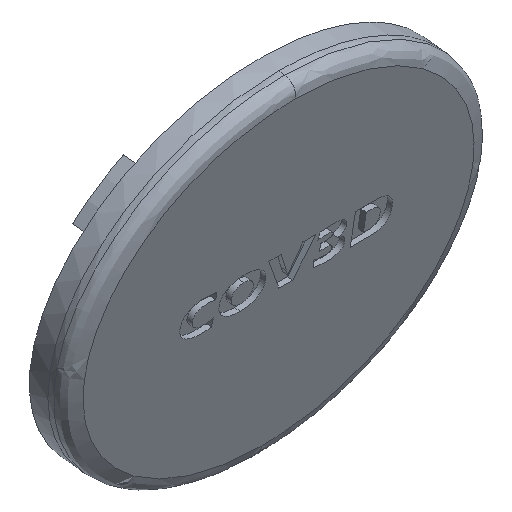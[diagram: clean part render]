
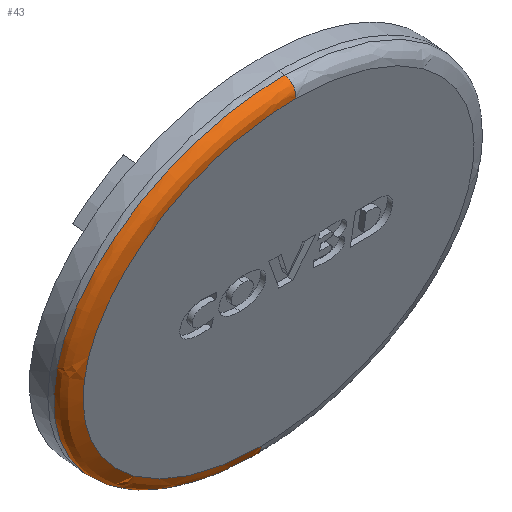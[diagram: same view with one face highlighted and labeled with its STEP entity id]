
A CAD part, isometric view. The second image highlights one B-rep face of the part: STEP entity #43.
In plain terms, the highlighted free-form (B-spline) face has degree [2, 2] with [3, 5] control points.
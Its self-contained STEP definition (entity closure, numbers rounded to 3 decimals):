
#43=ADVANCED_FACE('',(#110),#1043,.T.);
#110=FACE_OUTER_BOUND('',#186,.T.);
#186=EDGE_LOOP('',(#321,#322,#323,#324));
#321=ORIENTED_EDGE('',*,*,#577,.F.);
#322=ORIENTED_EDGE('',*,*,#578,.T.);
#323=ORIENTED_EDGE('',*,*,#579,.T.);
#324=ORIENTED_EDGE('',*,*,#713,.F.);
#577=EDGE_CURVE('',#888,#977,#727,.T.);
#578=EDGE_CURVE('',#888,#889,#728,.T.);
#579=EDGE_CURVE('',#889,#978,#729,.T.);
#713=EDGE_CURVE('',#977,#978,#746,.T.);
#727=(
BOUNDED_CURVE()
B_SPLINE_CURVE(2,(#2068,#2069,#2070,#2071,#2072),.UNSPECIFIED.,.F.,.F.)
B_SPLINE_CURVE_WITH_KNOTS((3,2,3),(0.,43.396,86.792),
 .UNSPECIFIED.)
CURVE()
GEOMETRIC_REPRESENTATION_ITEM()
RATIONAL_B_SPLINE_CURVE((1.,0.707,1.,0.707,1.))
REPRESENTATION_ITEM('')
);
#728=(
BOUNDED_CURVE()
B_SPLINE_CURVE(2,(#2073,#2074,#2075),.UNSPECIFIED.,.F.,.F.)
B_SPLINE_CURVE_WITH_KNOTS((3,3),(0.,3.727),.UNSPECIFIED.)
CURVE()
GEOMETRIC_REPRESENTATION_ITEM()
RATIONAL_B_SPLINE_CURVE((1.,0.707,1.))
REPRESENTATION_ITEM('')
);
#729=(
BOUNDED_CURVE()
B_SPLINE_CURVE(2,(#2076,#2077,#2078,#2079,#2080),.UNSPECIFIED.,.F.,.F.)
B_SPLINE_CURVE_WITH_KNOTS((3,2,3),(0.,43.396,86.792),
 .UNSPECIFIED.)
CURVE()
GEOMETRIC_REPRESENTATION_ITEM()
RATIONAL_B_SPLINE_CURVE((1.,0.707,1.,0.707,1.))
REPRESENTATION_ITEM('')
);
#746=(
BOUNDED_CURVE()
B_SPLINE_CURVE(2,(#2816,#2817,#2818),.UNSPECIFIED.,.F.,.F.)
B_SPLINE_CURVE_WITH_KNOTS((3,3),(0.,3.727),.UNSPECIFIED.)
CURVE()
GEOMETRIC_REPRESENTATION_ITEM()
RATIONAL_B_SPLINE_CURVE((1.,0.707,1.))
REPRESENTATION_ITEM('')
);
#888=VERTEX_POINT('',#1920);
#889=VERTEX_POINT('',#1921);
#977=VERTEX_POINT('',#2009);
#978=VERTEX_POINT('',#2010);
#1043=(
BOUNDED_SURFACE()
B_SPLINE_SURFACE(2,2,((#1190,#1191,#1192,#1193,#1194),(#1195,#1196,#1197,
#1198,#1199),(#1200,#1201,#1202,#1203,#1204)),.UNSPECIFIED.,.F.,.F.,.F.)
B_SPLINE_SURFACE_WITH_KNOTS((3,3),(3,2,3),(0.,3.727),(0.,43.396,
86.792),.UNSPECIFIED.)
GEOMETRIC_REPRESENTATION_ITEM()
RATIONAL_B_SPLINE_SURFACE(((1.,0.707,1.,0.707,1.),
(0.707,0.5,0.707,0.5,
0.707),(1.,0.707,1.,0.707,1.)))
REPRESENTATION_ITEM('')
SURFACE()
);
#1190=CARTESIAN_POINT('',(-0.114,-103.736,-25.364));
#1191=CARTESIAN_POINT('',(-39.932,-103.688,-25.359));
#1192=CARTESIAN_POINT('',(-39.932,-107.196,7.18));
#1193=CARTESIAN_POINT('',(-39.932,-110.704,39.719));
#1194=CARTESIAN_POINT('',(-0.114,-110.752,39.714));
#1195=CARTESIAN_POINT('',(-0.116,-106.095,-25.619));
#1196=CARTESIAN_POINT('',(-39.935,-106.047,-25.614));
#1197=CARTESIAN_POINT('',(-39.935,-109.555,6.926));
#1198=CARTESIAN_POINT('',(-39.935,-113.064,39.465));
#1199=CARTESIAN_POINT('',(-0.116,-113.112,39.46));
#1200=CARTESIAN_POINT('',(-0.116,-106.373,-23.045));
#1201=CARTESIAN_POINT('',(-36.786,-106.328,-23.04));
#1202=CARTESIAN_POINT('',(-36.786,-109.559,6.925));
#1203=CARTESIAN_POINT('',(-36.786,-112.79,36.89));
#1204=CARTESIAN_POINT('',(-0.116,-112.834,36.886));
#1920=CARTESIAN_POINT('',(-0.114,-103.736,-25.364));
#1921=CARTESIAN_POINT('',(-0.116,-106.373,-23.045));
#2009=CARTESIAN_POINT('',(-0.114,-110.752,39.714));
#2010=CARTESIAN_POINT('',(-0.116,-112.834,36.886));
#2068=CARTESIAN_POINT('',(-0.114,-103.736,-25.364));
#2069=CARTESIAN_POINT('',(-39.932,-103.688,-25.359));
#2070=CARTESIAN_POINT('',(-39.932,-107.196,7.18));
#2071=CARTESIAN_POINT('',(-39.932,-110.704,39.719));
#2072=CARTESIAN_POINT('',(-0.114,-110.752,39.714));
#2073=CARTESIAN_POINT('',(-0.114,-103.736,-25.364));
#2074=CARTESIAN_POINT('',(-0.116,-106.095,-25.619));
#2075=CARTESIAN_POINT('',(-0.116,-106.373,-23.045));
#2076=CARTESIAN_POINT('',(-0.116,-106.373,-23.045));
#2077=CARTESIAN_POINT('',(-36.786,-106.328,-23.04));
#2078=CARTESIAN_POINT('',(-36.786,-109.559,6.925));
#2079=CARTESIAN_POINT('',(-36.786,-112.79,36.89));
#2080=CARTESIAN_POINT('',(-0.116,-112.834,36.886));
#2816=CARTESIAN_POINT('',(-0.114,-110.752,39.714));
#2817=CARTESIAN_POINT('',(-0.116,-113.112,39.46));
#2818=CARTESIAN_POINT('',(-0.116,-112.834,36.886));
